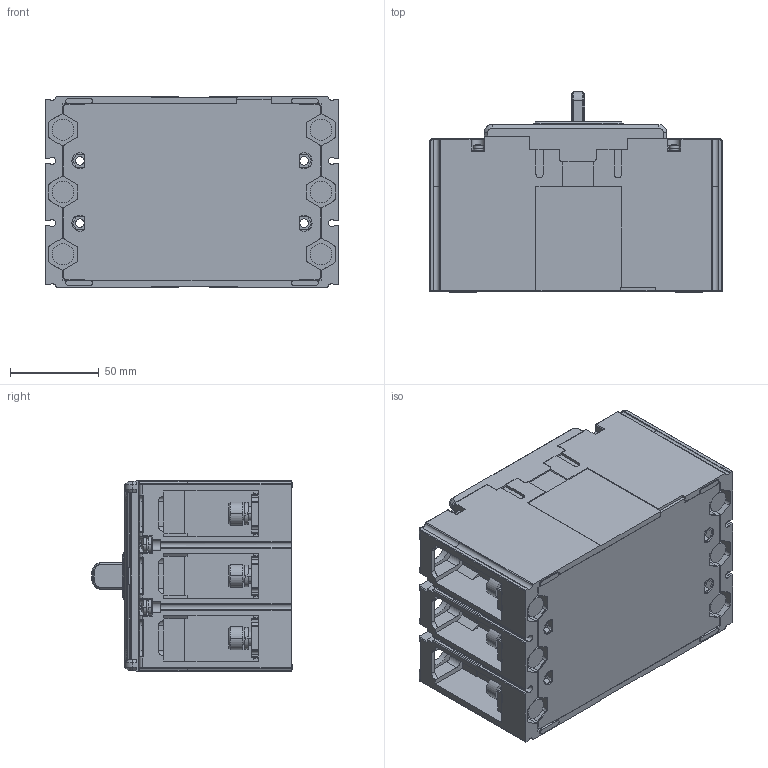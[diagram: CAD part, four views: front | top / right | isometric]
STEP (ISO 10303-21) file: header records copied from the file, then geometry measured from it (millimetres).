
FILE_DESCRIPTION((''),'2;1');
FILE_NAME('CDM6EI-250_3P_ASM','2023-05-29T',('ling.zeng'),(''),'PRO/ENGINEER BY PARAMETRIC TECHNOLOGY CORPORATION, 2015440','PRO/ENGINEER BY PARAMETRIC TECHNOLOGY CORPORATION, 2015440','');
FILE_SCHEMA(('CONFIG_CONTROL_DESIGN'));
Products named in the file (11): PRT0273; PRT0274; PRT0275; PRT0276_AF0; PRT0277_AF0; PRT0278_AF0; PRT0279; PRT0280; PRT0281_AF0; CDM6EI-250_3P_ASM_1_AF0_ASM; CDM6EI-250_3P_ASM
Assembly tree (10 placements, depth 3):
  CDM6EI-250_3P_ASM
    CDM6EI-250_3P_ASM_1_AF0_ASM
      PRT0273
      PRT0274
      PRT0275
      PRT0276_AF0
      PRT0277_AF0
      PRT0278_AF0
      PRT0279
      PRT0280
      PRT0281_AF0
Bounding box: 165 x 112.41 x 107 mm (x, y, z)
Volume: 1290805.8 mm3; surface area: 187573.6 mm2
Topology: 12 solids, 22 shells, 3546 faces, 9771 edges, 6249 vertices
Faces by surface type: plane 1990, cylinder 964, cone 186, extrusion 158, torus 107, sphere 100, bspline 41
Entity records: 116650 total; most frequent: CARTESIAN_POINT 25527, ORIENTED_EDGE 19336, DIRECTION 18801, EDGE_CURVE 9668, AXIS2_PLACEMENT_3D 6303, VERTEX_POINT 6249, VECTOR 6195, LINE 6037
